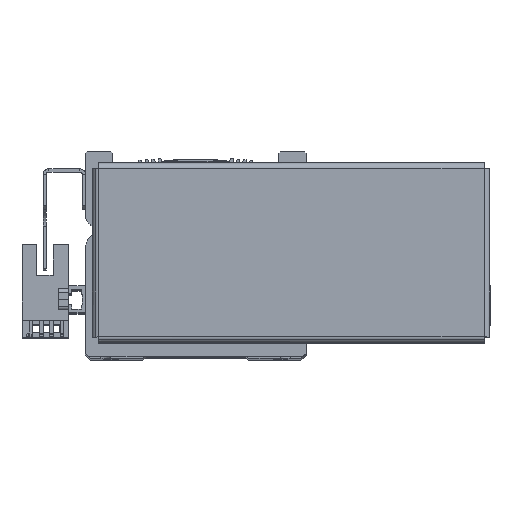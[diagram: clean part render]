
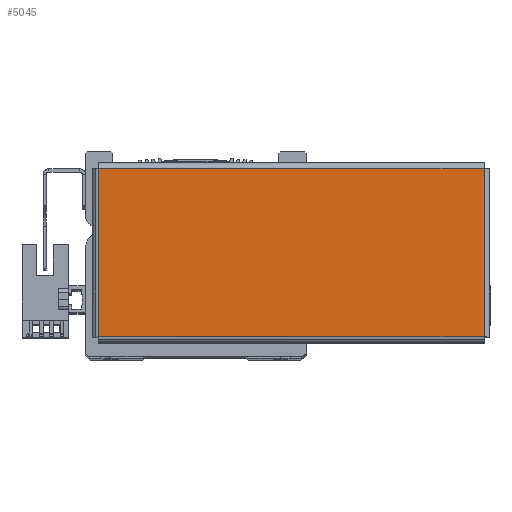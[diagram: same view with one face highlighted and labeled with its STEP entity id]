
A CAD part, top view. The second image highlights one B-rep face of the part: STEP entity #5045.
In plain terms, the highlighted planar face has unit normal (0, 0, 1) as drawn and (0, 0, -1) by its records, which use the part's own axes.
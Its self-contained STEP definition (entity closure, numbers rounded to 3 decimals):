
#308 = PLANE ( 'NONE',  #35862 ) ;
#309 = CARTESIAN_POINT ( 'NONE',  ( 0., 0., -1. ) ) ;
#312 = DIRECTION ( 'NONE',  ( 1., 0., 0. ) ) ;
#313 = DIRECTION ( 'NONE',  ( 0., 0., 1. ) ) ;
#1382 = FACE_OUTER_BOUND ( 'NONE', #29955, .T. ) ;
#1886 = VERTEX_POINT ( 'NONE', #27606 ) ;
#1917 = VERTEX_POINT ( 'NONE', #27665 ) ;
#1972 = VERTEX_POINT ( 'NONE', #27707 ) ;
#1976 = VERTEX_POINT ( 'NONE', #27733 ) ;
#5045 = ADVANCED_FACE ( 'NONE', ( #1382 ), #308, .F. ) ;
#12401 = LINE ( 'NONE', #14244, #12402 ) ;
#12402 = VECTOR ( 'NONE', #14258, 1000. ) ;
#12411 = LINE ( 'NONE', #14234, #12439 ) ;
#12420 = VECTOR ( 'NONE', #14260, 1000. ) ;
#12433 = LINE ( 'NONE', #14495, #12485 ) ;
#12438 = LINE ( 'NONE', #14198, #12420 ) ;
#12439 = VECTOR ( 'NONE', #14193, 1000. ) ;
#12485 = VECTOR ( 'NONE', #14571, 1000. ) ;
#14193 = DIRECTION ( 'NONE',  ( 0., -1., 0. ) ) ;
#14198 = CARTESIAN_POINT ( 'NONE',  ( 56.893, -24.763, -1. ) ) ;
#14234 = CARTESIAN_POINT ( 'NONE',  ( 56.863, 24.793, -1. ) ) ;
#14244 = CARTESIAN_POINT ( 'NONE',  ( -56.863, -24.793, -1. ) ) ;
#14258 = DIRECTION ( 'NONE',  ( 0., 1., 0. ) ) ;
#14260 = DIRECTION ( 'NONE',  ( -1., 0., 0. ) ) ;
#14495 = CARTESIAN_POINT ( 'NONE',  ( -56.893, 24.763, -1. ) ) ;
#14571 = DIRECTION ( 'NONE',  ( 1., 0., 0. ) ) ;
#16092 = ORIENTED_EDGE ( 'NONE', *, *, #19801, .T. ) ;
#16101 = ORIENTED_EDGE ( 'NONE', *, *, #19803, .T. ) ;
#16105 = ORIENTED_EDGE ( 'NONE', *, *, #19798, .T. ) ;
#16115 = ORIENTED_EDGE ( 'NONE', *, *, #19886, .T. ) ;
#19798 = EDGE_CURVE ( 'NONE', #1917, #1976, #12411, .T. ) ;
#19801 = EDGE_CURVE ( 'NONE', #1886, #1972, #12401, .T. ) ;
#19803 = EDGE_CURVE ( 'NONE', #1976, #1886, #12438, .T. ) ;
#19886 = EDGE_CURVE ( 'NONE', #1972, #1917, #12433, .T. ) ;
#27606 = CARTESIAN_POINT ( 'NONE',  ( -56.863, -24.763, -1. ) ) ;
#27665 = CARTESIAN_POINT ( 'NONE',  ( 56.863, 24.763, -1. ) ) ;
#27707 = CARTESIAN_POINT ( 'NONE',  ( -56.863, 24.763, -1. ) ) ;
#27733 = CARTESIAN_POINT ( 'NONE',  ( 56.863, -24.763, -1. ) ) ;
#29955 = EDGE_LOOP ( 'NONE', ( #16105, #16101, #16092, #16115 ) ) ;
#35862 = AXIS2_PLACEMENT_3D ( 'NONE', #309, #313, #312 ) ;
